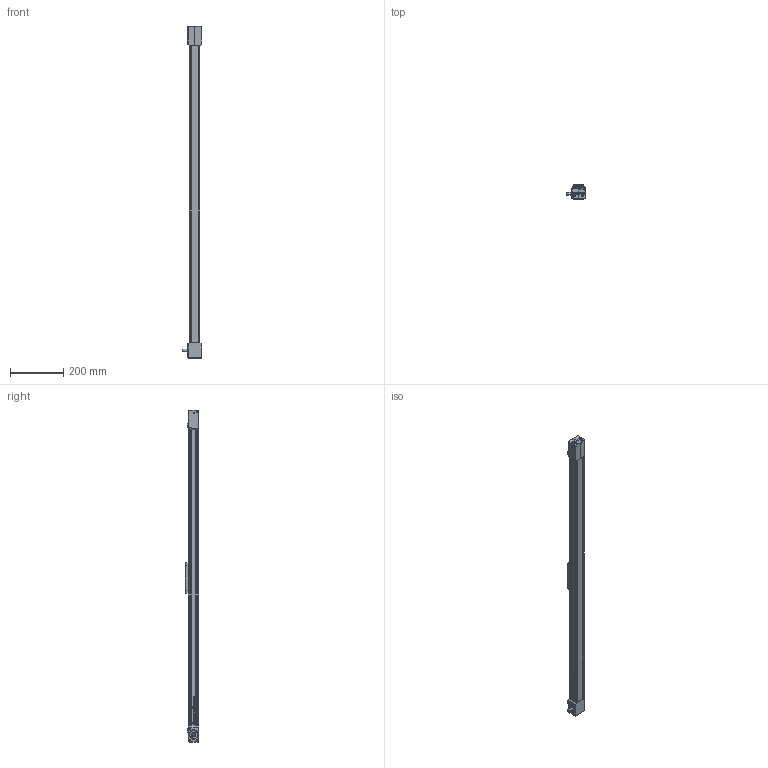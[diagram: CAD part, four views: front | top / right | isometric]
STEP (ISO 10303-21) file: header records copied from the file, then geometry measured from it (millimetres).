
FILE_DESCRIPTION (( 'STEP AP214' ), '1' );
FILE_NAME ('WMCS-040-1000 (3D).STEP', '2021-12-15T07:57:48', ( '' ), ( '' ), 'SwSTEP 2.0', 'SolidWorks 2016', '' );
FILE_SCHEMA (( 'AUTOMOTIVE_DESIGN' ));
Length unit declared in the file: millimetre
Products named in the file (3): WMCS-040-1000 (3D); Group1^WMCS-040-1000 (3D); Group2^WMCS-040-1000 (3D)
Assembly tree (2 placements, depth 2):
  WMCS-040-1000 (3D)
    Group2^WMCS-040-1000 (3D)
    Group1^WMCS-040-1000 (3D)
Bounding box: 72 x 52.3 x 1250 mm (x, y, z)
Volume: 1972278.2 mm3; surface area: 304980.7 mm2
Topology: 48 solids, 48 shells, 1566 faces, 3692 edges, 2277 vertices
Faces by surface type: plane 819, cylinder 369, cone 224, bspline 78, torus 76
Entity records: 52043 total; most frequent: CARTESIAN_POINT 12767, DIRECTION 7543, ORIENTED_EDGE 7236, EDGE_CURVE 3618, AXIS2_PLACEMENT_3D 2655, VERTEX_POINT 2277, VECTOR 2233, LINE 2233
